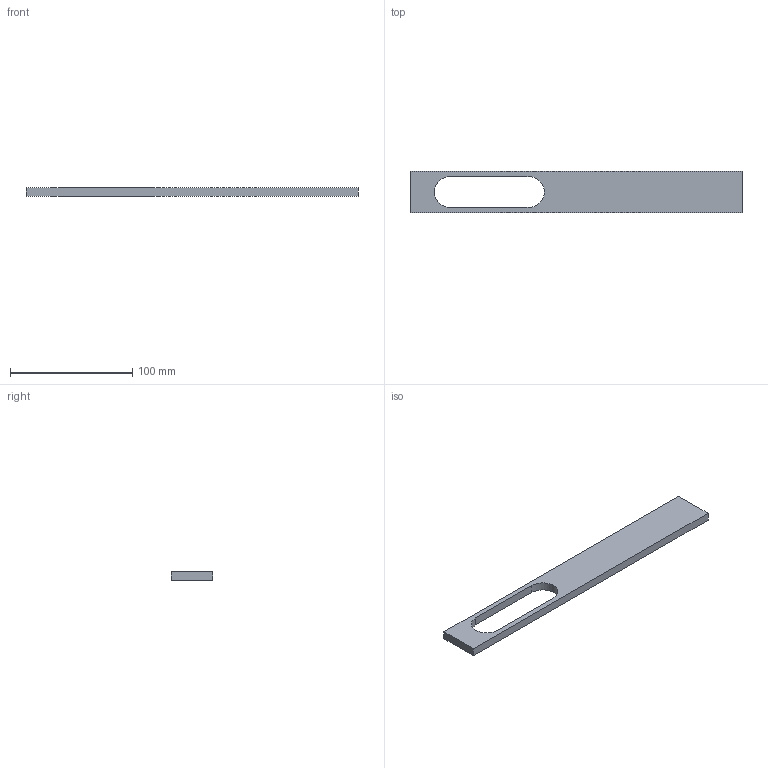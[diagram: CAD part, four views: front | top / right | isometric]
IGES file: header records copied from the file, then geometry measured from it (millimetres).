
Start section: Data from Parasolid IGES Translator 15.0.47, Copyright(c) 2006 Siemens P LM Software. All Rights Reserved.
Global section: file name: 9064671.igs; native system:  By UGS Corp.; preprocessor: XPlus GENERIC/IGES 3.0; author: Noname; organization: Noname; date: 20160314.174734; units: millimetre
Bounding box: 272 x 34 x 7 mm (x, y, z)
Surface area: 20309.6 mm2 (no closed solid volume)
Topology: 0 solids, 0 shells, 17 faces, 72 edges, 68 vertices
Faces by surface type: extrusion 11, revolution 6
